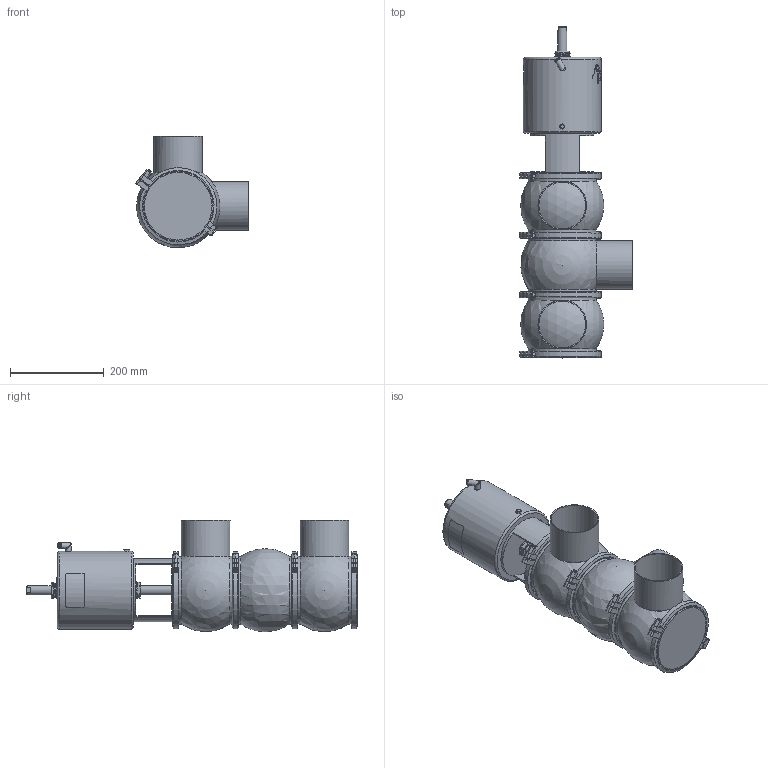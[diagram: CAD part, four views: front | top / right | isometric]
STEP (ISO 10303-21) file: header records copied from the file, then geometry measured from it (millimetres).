
FILE_DESCRIPTION (( 'STEP AP214' ), '1' );
FILE_NAME ('INNOVA L J W DIN 100 T4 AS NC_10.241.16.0013.STEP', '2024-08-07T07:49:39', ( '' ), ( '' ), 'SwSTEP 2.0', 'SolidWorks 2023', '' );
FILE_SCHEMA (( 'AUTOMOTIVE_DESIGN' ));
Length unit declared in the file: millimetre
Products named in the file (6): 10.240.15.0006_DIN 100; 10.240.15.0010_DN 100; 10.240.15.0014_T4 AS P180; 10.241.15.0001_DIN 100; 10.240.15.0001_DN 100; INNOVA L J W DIN 100 T4 AS NC_10.241.16.0013
Assembly tree (10 placements, depth 2):
  INNOVA L J W DIN 100 T4 AS NC_10.241.16.0013
    10.240.15.0006_DIN 100  x3
    10.240.15.0010_DN 100
    10.240.15.0014_T4 AS P180
    10.240.15.0001_DN 100  x4
    10.241.15.0001_DIN 100
Bounding box: 241.26 x 709.5 x 239 mm (x, y, z)
Volume: 12360165.2 mm3; surface area: 867527.7 mm2
Topology: 11 solids, 11 shells, 532 faces, 1418 edges, 923 vertices
Faces by surface type: plane 260, cylinder 136, bspline 80, cone 46, sphere 6, torus 4
Full cylindrical faces by diameter (mm): 6.15 x1, 8 x9, 8.5 x1, 10.5 x1, 12.5 x3, 16 x1, 20 x2, 31 x1, 34.5 x2, 36.5 x1, 100 x3, 104 x3, 135 x1, 144.5 x7, 156.5 x8, 166 x1
Entity records: 20420 total; most frequent: CARTESIAN_POINT 11285, ORIENTED_EDGE 1598, DIRECTION 1211, EDGE_CURVE 799, VERTEX_POINT 548, AXIS2_PLACEMENT_3D 461, EDGE_LOOP 397, FACE_OUTER_BOUND 359
